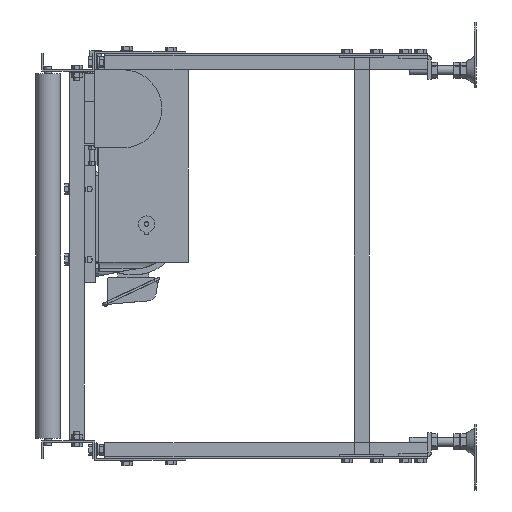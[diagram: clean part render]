
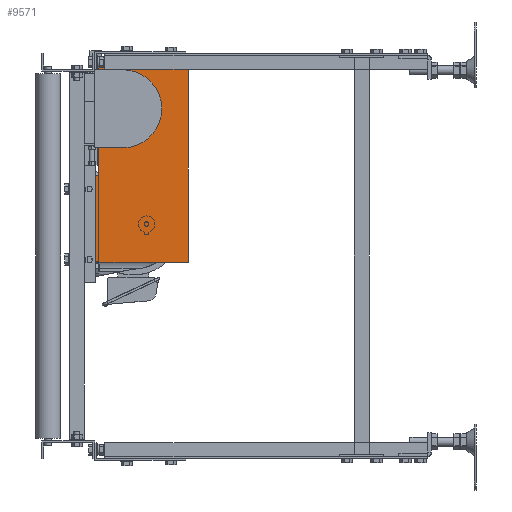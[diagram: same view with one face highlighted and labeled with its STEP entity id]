
A CAD part, left-side view. The second image highlights one B-rep face of the part: STEP entity #9571.
In plain terms, the highlighted planar face has unit normal (-1, 0, 0).
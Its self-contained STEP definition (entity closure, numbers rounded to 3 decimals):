
#9571=ADVANCED_FACE('',(#36227),#36226,.T.);
#36226=PLANE('',#68518);
#36227=FACE_OUTER_BOUND('',#68519,.T.);
#68515=CARTESIAN_POINT('',(326.8,-75.7,-40.8));
#68516=DIRECTION('',(-1.,0.,0.));
#68517=DIRECTION('',(0.,-1.,0.));
#68518=AXIS2_PLACEMENT_3D('',#68515,#68516,#68517);
#68519=EDGE_LOOP('',(#90091,#90092,#90093,#90094,#90095,#90096,#90097,#90098,#90099,#90100,#90101,#90102));
#90091=ORIENTED_EDGE('',*,*,#105133,.F.);
#90092=ORIENTED_EDGE('',*,*,#105157,.F.);
#90093=ORIENTED_EDGE('',*,*,#105126,.T.);
#90094=ORIENTED_EDGE('',*,*,#105152,.F.);
#90095=ORIENTED_EDGE('',*,*,#105151,.F.);
#90096=ORIENTED_EDGE('',*,*,#105156,.T.);
#90097=ORIENTED_EDGE('',*,*,#105137,.T.);
#90098=ORIENTED_EDGE('',*,*,#105142,.T.);
#90099=ORIENTED_EDGE('',*,*,#105146,.F.);
#90100=ORIENTED_EDGE('',*,*,#105144,.F.);
#90101=ORIENTED_EDGE('',*,*,#105130,.F.);
#90102=ORIENTED_EDGE('',*,*,#105116,.T.);
#105116=EDGE_CURVE('',#149226,#149227,#149228,.T.);
#105126=EDGE_CURVE('',#149275,#149289,#149296,.T.);
#105130=EDGE_CURVE('',#149226,#149322,#149323,.T.);
#105133=EDGE_CURVE('',#149342,#149227,#149343,.T.);
#105137=EDGE_CURVE('',#149370,#149362,#149371,.T.);
#105142=EDGE_CURVE('',#149362,#149397,#149404,.T.);
#105144=EDGE_CURVE('',#149322,#149417,#149418,.T.);
#105146=EDGE_CURVE('',#149417,#149397,#149430,.T.);
#105151=EDGE_CURVE('',#149457,#149442,#149464,.T.);
#105152=EDGE_CURVE('',#149442,#149289,#149470,.T.);
#105156=EDGE_CURVE('',#149457,#149370,#149494,.T.);
#105157=EDGE_CURVE('',#149275,#149342,#149500,.T.);
#149226=VERTEX_POINT('',#204905);
#149227=VERTEX_POINT('',#204906);
#149228=LINE('',#204907,#204908);
#149275=VERTEX_POINT('',#204933);
#149289=VERTEX_POINT('',#204941);
#149296=LINE('',#204945,#204946);
#149322=VERTEX_POINT('',#204959);
#149323=LINE('',#204960,#204961);
#149342=VERTEX_POINT('',#204970);
#149343=LINE('',#204971,#204972);
#149362=VERTEX_POINT('',#204981);
#149370=VERTEX_POINT('',#204986);
#149371=LINE('',#204987,#204988);
#149397=VERTEX_POINT('',#205001);
#149404=LINE('',#205005,#205006);
#149417=VERTEX_POINT('',#205012);
#149418=LINE('',#205013,#205014);
#149430=LINE('',#205019,#205020);
#149442=VERTEX_POINT('',#205025);
#149457=VERTEX_POINT('',#205034);
#149464=LINE('',#205038,#205039);
#149470=LINE('',#205041,#205042);
#149494=LINE('',#205053,#205054);
#149500=LINE('',#205056,#205057);
#204905=CARTESIAN_POINT('',(326.8,-107.,136.9));
#204906=CARTESIAN_POINT('',(326.8,-85.7,136.9));
#204907=CARTESIAN_POINT('',(326.8,-107.,136.9));
#204908=VECTOR('',#204909,21.3);
#204909=DIRECTION('',(0.,1.,0.));
#204933=CARTESIAN_POINT('',(326.8,-86.9,-30.8));
#204941=CARTESIAN_POINT('',(326.8,-86.9,-10.8));
#204945=CARTESIAN_POINT('',(326.8,-86.9,-30.8));
#204946=VECTOR('',#204947,20.);
#204947=DIRECTION('',(0.,0.,1.));
#204959=CARTESIAN_POINT('',(326.8,-107.,323.));
#204960=CARTESIAN_POINT('',(326.8,-107.,136.9));
#204961=VECTOR('',#204962,186.1);
#204962=DIRECTION('',(0.,0.,1.));
#204970=CARTESIAN_POINT('',(326.8,-85.7,-30.8));
#204971=CARTESIAN_POINT('',(326.8,-85.7,-30.8));
#204972=VECTOR('',#204973,167.7);
#204973=DIRECTION('',(0.,0.,1.));
#204981=CARTESIAN_POINT('',(326.8,-101.2,344.2));
#204986=CARTESIAN_POINT('',(326.8,-101.2,324.2));
#204987=CARTESIAN_POINT('',(326.8,-101.2,324.2));
#204988=VECTOR('',#204989,20.);
#204989=DIRECTION('',(0.,0.,1.));
#205001=CARTESIAN_POINT('',(326.8,-100.,344.2));
#205005=CARTESIAN_POINT('',(326.8,-101.2,344.2));
#205006=VECTOR('',#205007,1.2);
#205007=DIRECTION('',(0.,1.,0.));
#205012=CARTESIAN_POINT('',(326.8,-100.,323.));
#205013=CARTESIAN_POINT('',(326.8,-107.,323.));
#205014=VECTOR('',#205015,7.);
#205015=DIRECTION('',(0.,1.,0.));
#205019=CARTESIAN_POINT('',(326.8,-100.,323.));
#205020=VECTOR('',#205021,21.2);
#205021=DIRECTION('',(0.,0.,1.));
#205025=CARTESIAN_POINT('',(326.8,-260.,-10.8));
#205034=CARTESIAN_POINT('',(326.8,-260.,324.2));
#205038=CARTESIAN_POINT('',(326.8,-260.,324.2));
#205039=VECTOR('',#205040,335.);
#205040=DIRECTION('',(0.,0.,-1.));
#205041=CARTESIAN_POINT('',(326.8,-260.,-10.8));
#205042=VECTOR('',#205043,173.1);
#205043=DIRECTION('',(0.,1.,0.));
#205053=CARTESIAN_POINT('',(326.8,-260.,324.2));
#205054=VECTOR('',#205055,158.8);
#205055=DIRECTION('',(0.,1.,0.));
#205056=CARTESIAN_POINT('',(326.8,-86.9,-30.8));
#205057=VECTOR('',#205058,1.2);
#205058=DIRECTION('',(0.,1.,0.));
